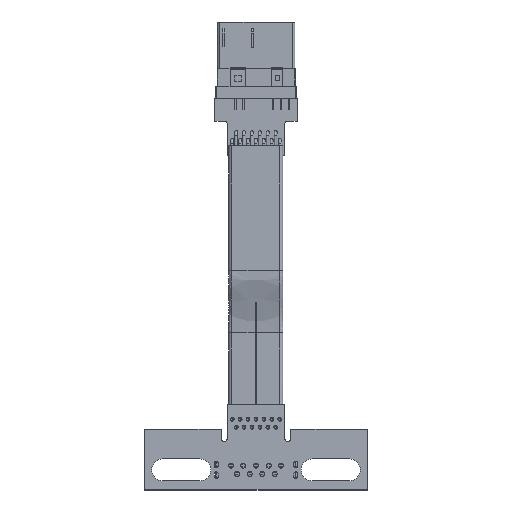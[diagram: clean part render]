
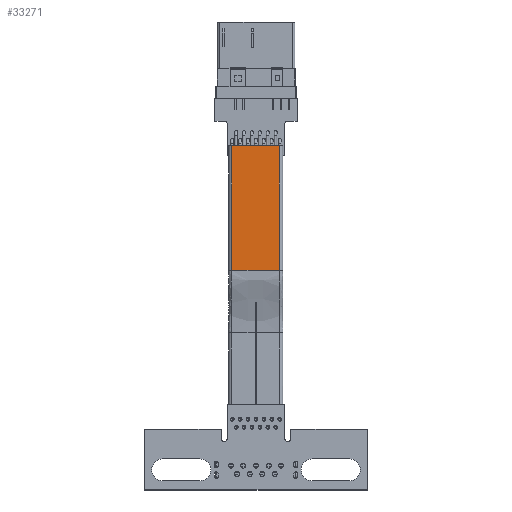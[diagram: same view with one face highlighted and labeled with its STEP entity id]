
A CAD part, top view. The second image highlights one B-rep face of the part: STEP entity #33271.
In plain terms, the highlighted planar face has unit normal (0, 0, 1) as drawn and (0, 0, -1) by its records, which use the part's own axes.
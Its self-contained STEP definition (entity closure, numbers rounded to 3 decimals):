
#31576 = VERTEX_POINT('',#31577);
#31577 = CARTESIAN_POINT('',(0.569,23.023,
    -2.457));
#31589 = EDGE_CURVE('',#31590,#31576,#31592,.T.);
#31590 = VERTEX_POINT('',#31591);
#31591 = CARTESIAN_POINT('',(8.189,23.023,
    -2.457));
#31592 = LINE('',#31593,#31594);
#31593 = CARTESIAN_POINT('',(4.379,23.023,
    -2.457));
#31594 = VECTOR('',#31595,1.);
#31595 = DIRECTION('',(-1.,0.,0.));
#33197 = VERTEX_POINT('',#33198);
#33198 = CARTESIAN_POINT('',(0.569,43.,-2.457));
#33220 = VERTEX_POINT('',#33221);
#33221 = CARTESIAN_POINT('',(8.189,43.,-2.457));
#33231 = EDGE_CURVE('',#33220,#33197,#33232,.T.);
#33232 = LINE('',#33233,#33234);
#33233 = CARTESIAN_POINT('',(4.379,43.,-2.457));
#33234 = VECTOR('',#33235,1.);
#33235 = DIRECTION('',(-1.,0.,0.));
#33253 = EDGE_CURVE('',#31576,#33197,#33254,.T.);
#33254 = LINE('',#33255,#33256);
#33255 = CARTESIAN_POINT('',(0.569,33.011,
    -2.457));
#33256 = VECTOR('',#33257,1.);
#33257 = DIRECTION('',(0.,1.,0.));
#33271 = ADVANCED_FACE('',(#33272),#33283,.T.);
#33272 = FACE_BOUND('',#33273,.T.);
#33273 = EDGE_LOOP('',(#33274,#33275,#33276,#33277));
#33274 = ORIENTED_EDGE('',*,*,#31589,.T.);
#33275 = ORIENTED_EDGE('',*,*,#33253,.T.);
#33276 = ORIENTED_EDGE('',*,*,#33231,.F.);
#33277 = ORIENTED_EDGE('',*,*,#33278,.F.);
#33278 = EDGE_CURVE('',#31590,#33220,#33279,.T.);
#33279 = LINE('',#33280,#33281);
#33280 = CARTESIAN_POINT('',(8.189,33.011,
    -2.457));
#33281 = VECTOR('',#33282,1.);
#33282 = DIRECTION('',(0.,1.,0.));
#33283 = PLANE('',#33284);
#33284 = AXIS2_PLACEMENT_3D('',#33285,#33286,#33287);
#33285 = CARTESIAN_POINT('',(8.189,23.023,
    -2.457));
#33286 = DIRECTION('',(0.,0.,-1.));
#33287 = DIRECTION('',(-1.,0.,0.));
